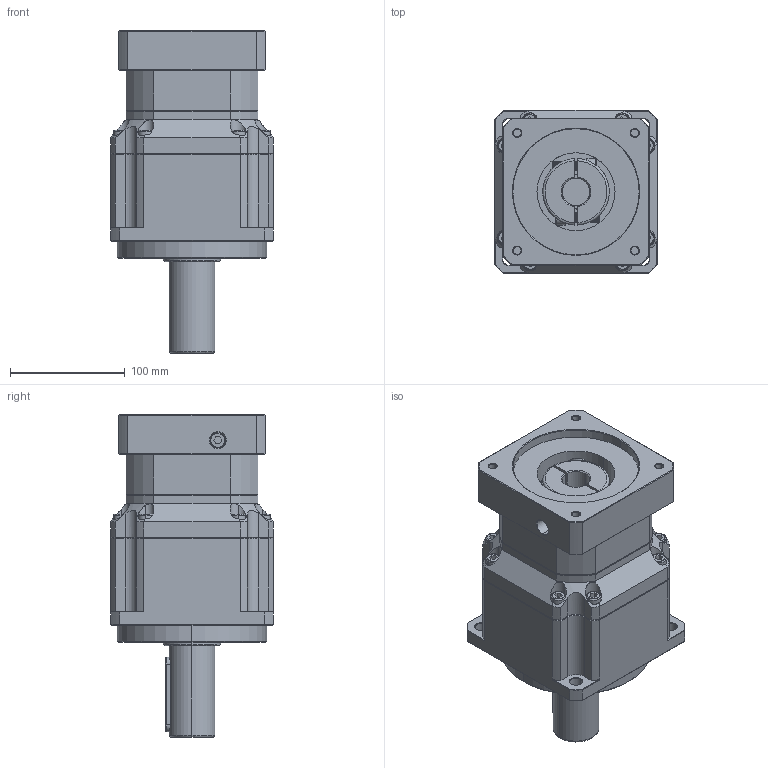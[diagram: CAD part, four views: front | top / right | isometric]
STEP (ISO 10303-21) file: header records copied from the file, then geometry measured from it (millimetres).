
FILE_DESCRIPTION (( 'STEP AP214' ), '1' );
FILE_NAME ('ZPB142-L2-P1-S2-24-110-145-M8.step', '2024-07-05T00:18:21', ( 'Windows 蚚誧' ), ( 'Organization' ), 'SwSTEP 2.0', 'SolidWorks 2016', '' );
FILE_SCHEMA (( 'AUTOMOTIVE_DESIGN' ));
Length unit declared in the file: millimetre
Products named in the file (1): ZPB142-L2-P1-S2-24-110-145-M8
Bounding box: 142 x 142 x 281.5 mm (x, y, z)
Surface area: 199063.1 mm2 (no closed solid volume)
Topology: 0 solids, 3 shells, 1770 faces, 4754 edges, 3084 vertices
Faces by surface type: plane 1020, bspline 397, cylinder 188, cone 165
Full cylindrical faces by diameter (mm): 14 x1
Entity records: 100904 total; most frequent: CARTESIAN_POINT 52206, ORIENTED_EDGE 9477, DIRECTION 6965, EDGE_CURVE 4753, LINE 3175, VECTOR 3175, VERTEX_POINT 3084, AXIS2_PLACEMENT_3D 1895
